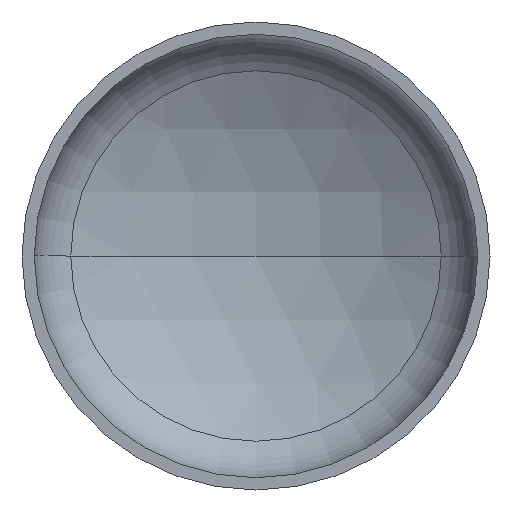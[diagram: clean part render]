
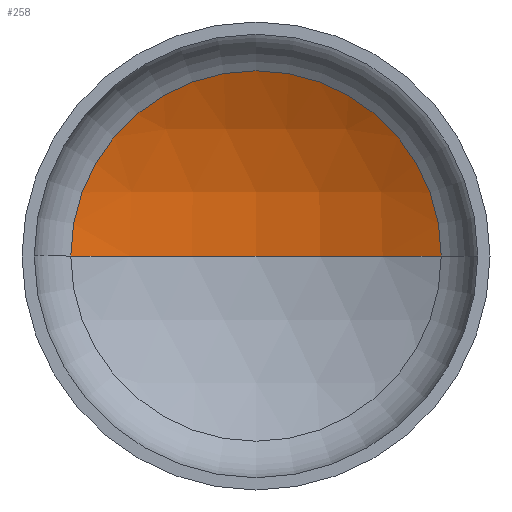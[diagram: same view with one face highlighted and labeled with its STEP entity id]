
A CAD part, front view. The second image highlights one B-rep face of the part: STEP entity #258.
In plain terms, the highlighted spherical face has radius 3600 mm.
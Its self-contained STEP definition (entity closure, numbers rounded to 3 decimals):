
#7 = DIRECTION ( 'NONE',  ( 1., 0., 0. ) ) ;
#12 = EDGE_LOOP ( 'NONE', ( #369, #82, #106 ) ) ;
#17 = VERTEX_POINT ( 'NONE', #281 ) ;
#25 = DIRECTION ( 'NONE',  ( 0., 0., 1. ) ) ;
#26 = CARTESIAN_POINT ( 'NONE',  ( 0., -2449.689, 0. ) ) ;
#39 = VERTEX_POINT ( 'NONE', #205 ) ;
#82 = ORIENTED_EDGE ( 'NONE', *, *, #253, .T. ) ;
#103 = CIRCLE ( 'NONE', #350, 1780.792 ) ;
#106 = ORIENTED_EDGE ( 'NONE', *, *, #270, .T. ) ;
#117 = FACE_OUTER_BOUND ( 'NONE', #12, .T. ) ;
#157 = DIRECTION ( 'NONE',  ( 1., 0., 0. ) ) ;
#158 = DIRECTION ( 'NONE',  ( 0., -1., 0. ) ) ;
#187 = SPHERICAL_SURFACE ( 'NONE', #367, 3600. ) ;
#202 = CARTESIAN_POINT ( 'NONE',  ( 0., -2449.689, 0. ) ) ;
#205 = CARTESIAN_POINT ( 'NONE',  ( 0., 1150.311, 0. ) ) ;
#216 = EDGE_CURVE ( 'NONE', #39, #231, #268, .T. ) ;
#231 = VERTEX_POINT ( 'NONE', #379 ) ;
#232 = DIRECTION ( 'NONE',  ( -1., 0., 0. ) ) ;
#234 = DIRECTION ( 'NONE',  ( 0., 0., -1. ) ) ;
#237 = DIRECTION ( 'NONE',  ( 0., 0., -1. ) ) ;
#240 = CARTESIAN_POINT ( 'NONE',  ( 0., -2449.689, 0. ) ) ;
#253 = EDGE_CURVE ( 'NONE', #39, #17, #389, .T. ) ;
#258 = ADVANCED_FACE ( 'NONE', ( #117 ), #187, .F. ) ;
#262 = AXIS2_PLACEMENT_3D ( 'NONE', #26, #25, #7 ) ;
#263 = DIRECTION ( 'NONE',  ( -1., 0., 0. ) ) ;
#268 = CIRCLE ( 'NONE', #262, 3600. ) ;
#270 = EDGE_CURVE ( 'NONE', #17, #231, #103, .T. ) ;
#278 = CARTESIAN_POINT ( 'NONE',  ( 0., 679.013, 0. ) ) ;
#281 = CARTESIAN_POINT ( 'NONE',  ( 1780.792, 679.013, 0. ) ) ;
#294 = AXIS2_PLACEMENT_3D ( 'NONE', #240, #237, #232 ) ;
#350 = AXIS2_PLACEMENT_3D ( 'NONE', #278, #158, #157 ) ;
#367 = AXIS2_PLACEMENT_3D ( 'NONE', #202, #234, #263 ) ;
#369 = ORIENTED_EDGE ( 'NONE', *, *, #216, .F. ) ;
#379 = CARTESIAN_POINT ( 'NONE',  ( -1780.792, 679.013, 0. ) ) ;
#389 = CIRCLE ( 'NONE', #294, 3600. ) ;
